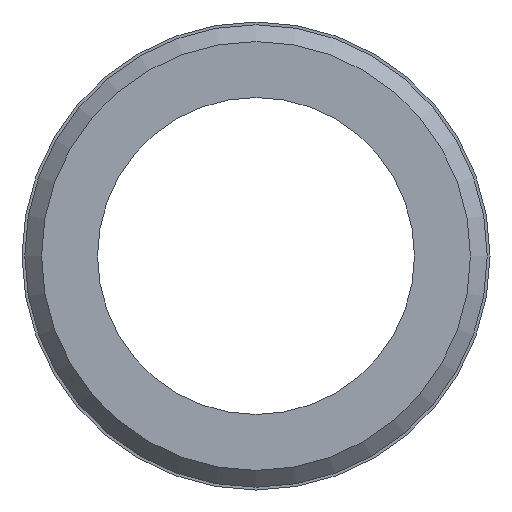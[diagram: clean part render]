
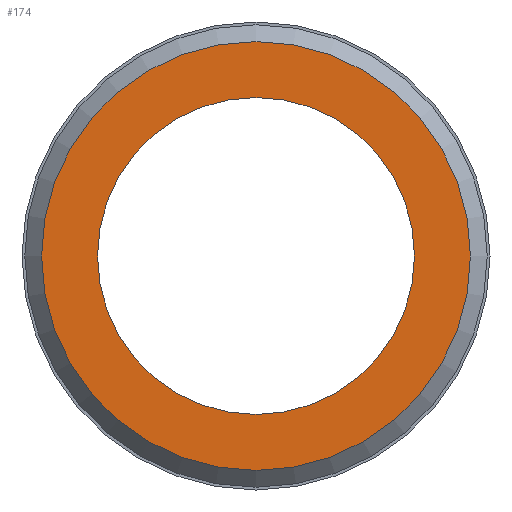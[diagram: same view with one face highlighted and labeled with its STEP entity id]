
A CAD part, front view. The second image highlights one B-rep face of the part: STEP entity #174.
In plain terms, the highlighted planar face has unit normal (0, -1, 0).
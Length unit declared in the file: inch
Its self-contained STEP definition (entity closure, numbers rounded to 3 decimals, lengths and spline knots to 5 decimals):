
#16=FACE_BOUND('',#41,.T.);
#20=PLANE('',#202);
#30=FACE_OUTER_BOUND('',#40,.T.);
#40=EDGE_LOOP('',(#133));
#41=EDGE_LOOP('',(#134,#135));
#62=CIRCLE('',#197,0.23);
#66=CIRCLE('',#203,0.17);
#67=CIRCLE('',#204,0.17);
#81=VERTEX_POINT('',#292);
#85=VERTEX_POINT('',#304);
#86=VERTEX_POINT('',#305);
#99=EDGE_CURVE('',#81,#81,#62,.T.);
#105=EDGE_CURVE('',#85,#86,#66,.T.);
#106=EDGE_CURVE('',#86,#85,#67,.T.);
#133=ORIENTED_EDGE('',*,*,#99,.F.);
#134=ORIENTED_EDGE('',*,*,#105,.F.);
#135=ORIENTED_EDGE('',*,*,#106,.F.);
#174=ADVANCED_FACE('',(#30,#16),#20,.T.);
#197=AXIS2_PLACEMENT_3D('',#293,#229,#230);
#202=AXIS2_PLACEMENT_3D('',#303,#241,#242);
#203=AXIS2_PLACEMENT_3D('',#306,#243,#244);
#204=AXIS2_PLACEMENT_3D('',#307,#245,#246);
#229=DIRECTION('center_axis',(0.,1.,0.));
#230=DIRECTION('ref_axis',(0.,0.,1.));
#241=DIRECTION('center_axis',(0.,-1.,0.));
#242=DIRECTION('ref_axis',(0.,0.,-1.));
#243=DIRECTION('center_axis',(0.,-1.,0.));
#244=DIRECTION('ref_axis',(1.,0.,0.));
#245=DIRECTION('center_axis',(0.,-1.,0.));
#246=DIRECTION('ref_axis',(1.,0.,0.));
#292=CARTESIAN_POINT('',(0.,0.,-0.23));
#293=CARTESIAN_POINT('Origin',(0.,0.,0.));
#303=CARTESIAN_POINT('Origin',(0.,0.,-0.17));
#304=CARTESIAN_POINT('',(0.,0.,-0.17));
#305=CARTESIAN_POINT('',(0.,0.,0.17));
#306=CARTESIAN_POINT('Origin',(0.,0.,0.));
#307=CARTESIAN_POINT('Origin',(0.,0.,0.));
